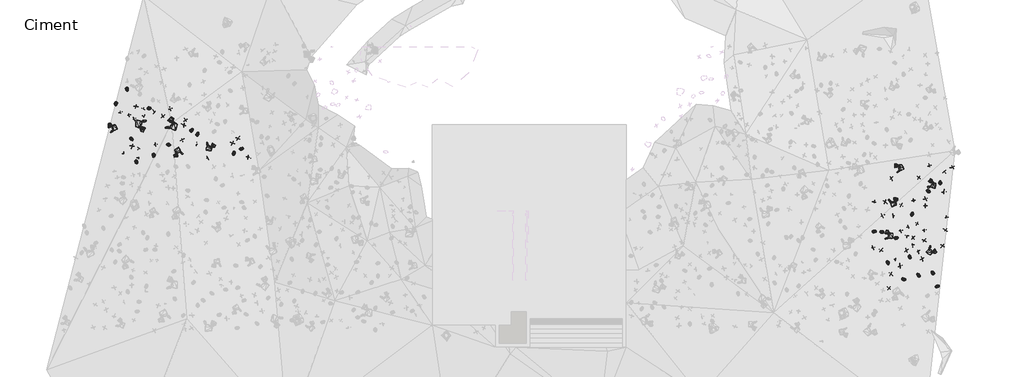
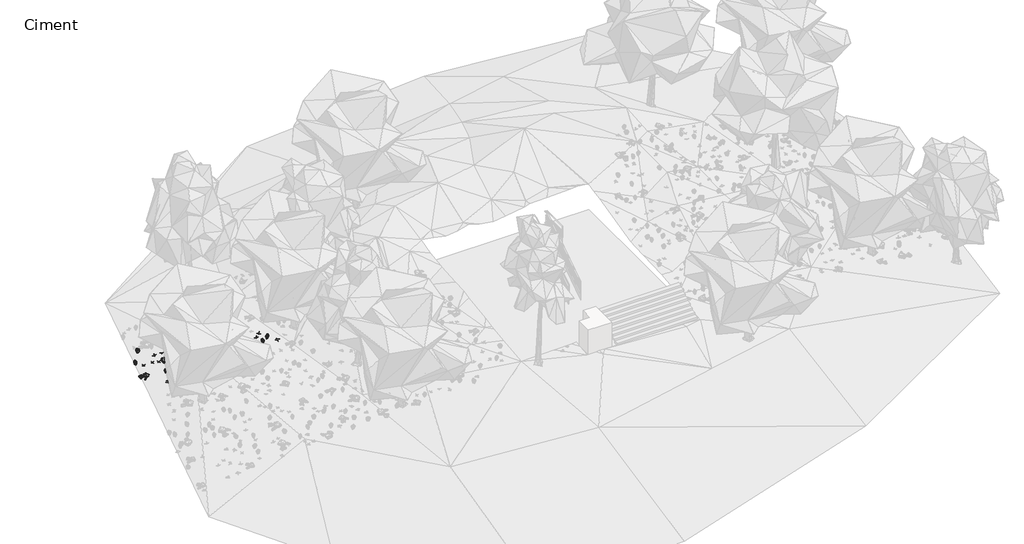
# One storey, part 19 of 30: 89 geographic elements.
"""IFC4 building model written with IfcOpenShell, lengths in millimetres."""

from ifc_helpers import new_model, si_unit, origin, place, context, project, spatial, transform, mapped, element, save
from components import enscape_assetdefinition_bush_025_fern_enscape_5718bf32, enscape_assetdefinition_bush_054_plant_09_version_2_enscape_7b546a12, enscape_assetdefinition_bush_062_plant_09_version_3_enscape_ccf8c8eb, enscape_assetdefinition_stone_013_group_enscape_516da325, enscape_assetdefinition_stone_013_group_enscape_db9b3e91

model = new_model("IFC4")

# Units and contexts
model_context = context("Model", 3, world=origin())
ifc_project = project(units=[si_unit("LENGTHUNIT", "METRE", prefix="MILLI")], contexts=[model_context])

# Site, building, storey
site = spatial("IfcSite", under=ifc_project)
building = spatial("IfcBuilding", under=site)
storey = spatial("IfcBuildingStorey", under=building, Name="Ciment", Elevation=-1500.0)

# Geographic elements
placement = place(None, origin())
enscape_assetdefinition_bush_025_fern_enscape_shape = enscape_assetdefinition_bush_025_fern_enscape_5718bf32(model_context)
element("IfcGeographicElement", 1, ObjectType="Enscape AssetDefinition - Bush 025 Fern : Enscape AssetDefinition - Bush 025 Fern", at=placement, inside=storey, context=model_context, shape_type="MappedRepresentation", body=[
    mapped(enscape_assetdefinition_bush_025_fern_enscape_shape, transform((25272.2930908, -6315.2446747, -2665.5201912), x_axis=(-0.4470800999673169, 0.8944939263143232, 0.0), y_axis=(-0.8944939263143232, -0.4470800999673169, 0.0), z_axis=(0.0, 0.0, 1.0))),
])
element("IfcGeographicElement", 2, ObjectType="Enscape AssetDefinition - Bush 025 Fern : Enscape AssetDefinition - Bush 025 Fern", at=placement, inside=storey, context=model_context, shape_type="MappedRepresentation", body=[
    mapped(enscape_assetdefinition_bush_025_fern_enscape_shape, transform((26689.6247864, -5944.6525574, -2795.6855297), x_axis=(-0.4968771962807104, 0.8678208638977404, 0.0), y_axis=(-0.8678208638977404, -0.4968771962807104, 0.0), z_axis=(0.0, 0.0, 1.0))),
])
element("IfcGeographicElement", 3, ObjectType="Enscape AssetDefinition - Bush 025 Fern : Enscape AssetDefinition - Bush 025 Fern", at=placement, inside=storey, context=model_context, shape_type="MappedRepresentation", body=[
    mapped(enscape_assetdefinition_bush_025_fern_enscape_shape, transform((24394.0219879, -4315.8321381, -2561.4352226), x_axis=(0.9528302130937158, 0.3035038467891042, 0.0), y_axis=(-0.3035038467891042, 0.9528302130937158, 0.0), z_axis=(0.0, 0.0, 1.0))),
])
element("IfcGeographicElement", 4, ObjectType="Enscape AssetDefinition - Bush 025 Fern : Enscape AssetDefinition - Bush 025 Fern", at=placement, inside=storey, context=model_context, shape_type="MappedRepresentation", body=[
    mapped(enscape_assetdefinition_bush_025_fern_enscape_shape, transform((-19826.2519836, 2251.2340546, -2000.0), x_axis=(0.6015106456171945, 0.7988647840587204, 0.0), y_axis=(-0.7988647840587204, 0.6015106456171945, 0.0), z_axis=(0.0, 0.0, 1.0))),
])
element("IfcGeographicElement", 5, ObjectType="Enscape AssetDefinition - Bush 025 Fern : Enscape AssetDefinition - Bush 025 Fern", at=placement, inside=storey, context=model_context, shape_type="MappedRepresentation", body=[
    mapped(enscape_assetdefinition_bush_025_fern_enscape_shape, transform((-23718.952179, 1681.8218231, -2591.2482738), x_axis=(0.8917267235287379, -0.45257424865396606, 0.0), y_axis=(0.45257424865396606, 0.8917267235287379, 0.0), z_axis=(0.0, 0.0, 1.0))),
])
element("IfcGeographicElement", 6, ObjectType="Enscape AssetDefinition - Bush 025 Fern : Enscape AssetDefinition - Bush 025 Fern", at=placement, inside=storey, context=model_context, shape_type="MappedRepresentation", body=[
    mapped(enscape_assetdefinition_bush_025_fern_enscape_shape, transform((28665.47966, -1145.1797485, -2932.1327209), x_axis=(-0.23205937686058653, 0.9727016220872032, 0.0), y_axis=(-0.9727016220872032, -0.23205937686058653, 0.0), z_axis=(0.0, 0.0, 1.0))),
])
element("IfcGeographicElement", 7, ObjectType="Enscape AssetDefinition - Bush 025 Fern : Enscape AssetDefinition - Bush 025 Fern", at=placement, inside=storey, context=model_context, shape_type="MappedRepresentation", body=[
    mapped(enscape_assetdefinition_bush_025_fern_enscape_shape, transform((25821.47789, -4731.7051888, -2700.823307), x_axis=(0.8997557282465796, 0.4363938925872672, 0.0), y_axis=(-0.4363938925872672, 0.8997557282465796, 0.0), z_axis=(0.0, 0.0, 1.0))),
])
element("IfcGeographicElement", 8, ObjectType="Enscape AssetDefinition - Bush 025 Fern : Enscape AssetDefinition - Bush 025 Fern", at=placement, inside=storey, context=model_context, shape_type="MappedRepresentation", body=[
    mapped(enscape_assetdefinition_bush_025_fern_enscape_shape, transform((26303.4725189, -7410.0041389, -2774.5606899), x_axis=(0.9986391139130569, -0.05215285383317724, 0.0), y_axis=(0.05215285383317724, 0.9986391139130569, 0.0), z_axis=(0.0, 0.0, 1.0))),
])
element("IfcGeographicElement", 9, ObjectType="Enscape AssetDefinition - Bush 025 Fern : Enscape AssetDefinition - Bush 025 Fern", at=placement, inside=storey, context=model_context, shape_type="MappedRepresentation", body=[
    mapped(enscape_assetdefinition_bush_025_fern_enscape_shape, transform((-24014.6369934, 4903.793335, -2876.9335747), x_axis=(0.4265110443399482, -0.9044823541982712, 0.0), y_axis=(0.9044823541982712, 0.4265110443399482, 0.0), z_axis=(0.0, 0.0, 1.0))),
])
element("IfcGeographicElement", 10, ObjectType="Enscape AssetDefinition - Bush 025 Fern : Enscape AssetDefinition - Bush 025 Fern", at=placement, inside=storey, context=model_context, shape_type="MappedRepresentation", body=[
    mapped(enscape_assetdefinition_bush_025_fern_enscape_shape, transform((28458.1928253, -7866.733551, -2983.1666946), x_axis=(-0.8804370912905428, -0.4741629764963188, 0.0), y_axis=(0.4741629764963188, -0.8804370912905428, 0.0), z_axis=(0.0, 0.0, 1.0))),
])
element("IfcGeographicElement", 11, ObjectType="Enscape AssetDefinition - Bush 025 Fern : Enscape AssetDefinition - Bush 025 Fern", at=placement, inside=storey, context=model_context, shape_type="MappedRepresentation", body=[
    mapped(enscape_assetdefinition_bush_025_fern_enscape_shape, transform((24889.5225525, -4343.1663513, -2608.590126), x_axis=(0.9862597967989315, 0.16520173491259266, 0.0), y_axis=(-0.16520173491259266, 0.9862597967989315, 0.0), z_axis=(0.0, 0.0, 1.0))),
])
element("IfcGeographicElement", 12, ObjectType="Enscape AssetDefinition - Bush 025 Fern : Enscape AssetDefinition - Bush 025 Fern", at=placement, inside=storey, context=model_context, shape_type="MappedRepresentation", body=[
    mapped(enscape_assetdefinition_bush_025_fern_enscape_shape, transform((-17083.1756592, 766.3898468, -2000.0), x_axis=(0.09446084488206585, 0.995528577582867, 0.0), y_axis=(-0.995528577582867, 0.09446084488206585, 0.0), z_axis=(0.0, 0.0, 1.0))),
])
element("IfcGeographicElement", 13, ObjectType="Enscape AssetDefinition - Bush 025 Fern : Enscape AssetDefinition - Bush 025 Fern", at=placement, inside=storey, context=model_context, shape_type="MappedRepresentation", body=[
    mapped(enscape_assetdefinition_bush_025_fern_enscape_shape, transform((-21310.67276, 1307.7812195, -2032.7322483), x_axis=(0.9995155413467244, 0.031123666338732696, 0.0), y_axis=(-0.031123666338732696, 0.9995155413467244, 0.0), z_axis=(0.0, 0.0, 1.0))),
])
element("IfcGeographicElement", 14, ObjectType="Enscape AssetDefinition - Bush 025 Fern : Enscape AssetDefinition - Bush 025 Fern", at=placement, inside=storey, context=model_context, shape_type="MappedRepresentation", body=[
    mapped(enscape_assetdefinition_bush_025_fern_enscape_shape, transform((-23405.6720734, 191.9727325, -2414.6027565), x_axis=(0.5248636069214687, -0.8511863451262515, 0.0), y_axis=(0.8511863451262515, 0.5248636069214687, 0.0), z_axis=(0.0, 0.0, 1.0))),
])
element("IfcGeographicElement", 15, ObjectType="Enscape AssetDefinition - Bush 025 Fern : Enscape AssetDefinition - Bush 025 Fern", at=placement, inside=storey, context=model_context, shape_type="MappedRepresentation", body=[
    mapped(enscape_assetdefinition_bush_025_fern_enscape_shape, transform((-22586.4562988, 3673.8643646, -2436.0294342), x_axis=(-0.9929534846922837, -0.11850475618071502, 0.0), y_axis=(0.11850475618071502, -0.9929534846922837, 0.0), z_axis=(0.0, 0.0, 1.0))),
])
element("IfcGeographicElement", 16, ObjectType="Enscape AssetDefinition - Bush 025 Fern : Enscape AssetDefinition - Bush 025 Fern", at=placement, inside=storey, context=model_context, shape_type="MappedRepresentation", body=[
    mapped(enscape_assetdefinition_bush_025_fern_enscape_shape, transform((26832.2696686, -3190.3400421, -2780.230999), x_axis=(-0.10623300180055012, -0.9943412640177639, 0.0), y_axis=(0.9943412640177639, -0.10623300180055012, 0.0), z_axis=(0.0, 0.0, 1.0))),
])
element("IfcGeographicElement", 17, ObjectType="Enscape AssetDefinition - Bush 025 Fern : Enscape AssetDefinition - Bush 025 Fern", at=placement, inside=storey, context=model_context, shape_type="MappedRepresentation", body=[
    mapped(enscape_assetdefinition_bush_025_fern_enscape_shape, transform((27901.5789032, -1701.1739016, -2865.7221794), x_axis=(0.9169767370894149, -0.39894067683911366, 0.0), y_axis=(0.39894067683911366, 0.9169767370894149, 0.0), z_axis=(0.0, 0.0, 1.0))),
])
element("IfcGeographicElement", 18, ObjectType="Enscape AssetDefinition - Bush 025 Fern : Enscape AssetDefinition - Bush 025 Fern", at=placement, inside=storey, context=model_context, shape_type="MappedRepresentation", body=[
    mapped(enscape_assetdefinition_bush_025_fern_enscape_shape, transform((-19436.2297058, 2000.0, -2000.0), x_axis=(0.24957650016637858, 0.9683550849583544, 0.0), y_axis=(-0.9683550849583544, 0.24957650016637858, 0.0), z_axis=(0.0, 0.0, 1.0))),
])
element("IfcGeographicElement", 19, ObjectType="Enscape AssetDefinition - Bush 025 Fern : Enscape AssetDefinition - Bush 025 Fern", at=placement, inside=storey, context=model_context, shape_type="MappedRepresentation", body=[
    mapped(enscape_assetdefinition_bush_025_fern_enscape_shape, transform((27255.4340363, -7129.8203468, -2861.6585732), x_axis=(-0.7425575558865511, 0.6697822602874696, 0.0), y_axis=(-0.6697822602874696, -0.7425575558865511, 0.0), z_axis=(0.0, 0.0, 1.0))),
])
element("IfcGeographicElement", 20, ObjectType="Enscape AssetDefinition - Bush 025 Fern : Enscape AssetDefinition - Bush 025 Fern", at=placement, inside=storey, context=model_context, shape_type="MappedRepresentation", body=[
    mapped(enscape_assetdefinition_bush_025_fern_enscape_shape, transform((28184.3090057, -6986.1869812, -2948.0071068), x_axis=(-0.6942662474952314, 0.7197182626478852, 0.0), y_axis=(-0.7197182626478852, -0.6942662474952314, 0.0), z_axis=(0.0, 0.0, 1.0))),
])
element("IfcGeographicElement", 21, ObjectType="Enscape AssetDefinition - Bush 025 Fern : Enscape AssetDefinition - Bush 025 Fern", at=placement, inside=storey, context=model_context, shape_type="MappedRepresentation", body=[
    mapped(enscape_assetdefinition_bush_025_fern_enscape_shape, transform((-22283.3995819, 622.9152679, -2159.6889496), x_axis=(0.11024218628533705, -0.9939047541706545, 0.0), y_axis=(0.9939047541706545, 0.11024218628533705, 0.0), z_axis=(0.0, 0.0, 1.0))),
])
element("IfcGeographicElement", 22, ObjectType="Enscape AssetDefinition - Bush 025 Fern : Enscape AssetDefinition - Bush 025 Fern", at=placement, inside=storey, context=model_context, shape_type="MappedRepresentation", body=[
    mapped(enscape_assetdefinition_bush_025_fern_enscape_shape, transform((-24730.4992676, 3964.4908905, -2996.0064888), x_axis=(0.0324534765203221, -0.9994732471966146, 0.0), y_axis=(0.9994732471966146, 0.0324534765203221, 0.0), z_axis=(0.0, 0.0, 1.0))),
])
element("IfcGeographicElement", 23, ObjectType="Enscape AssetDefinition - Bush 025 Fern : Enscape AssetDefinition - Bush 025 Fern", at=placement, inside=storey, context=model_context, shape_type="MappedRepresentation", body=[
    mapped(enscape_assetdefinition_bush_025_fern_enscape_shape, transform((-16603.6338806, 1044.757843, -2000.0), x_axis=(-0.8660772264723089, -0.4999102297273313, 0.0), y_axis=(0.4999102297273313, -0.8660772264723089, 0.0), z_axis=(0.0, 0.0, 1.0))),
])
enscape_assetdefinition_bush_054_plant_09_version_2_enscape_shape = enscape_assetdefinition_bush_054_plant_09_version_2_enscape_7b546a12(model_context)
element("IfcGeographicElement", 24, ObjectType="Enscape AssetDefinition - Bush 054 Plant 09, Version 2 : Enscape AssetDefinition - Bush 054 Plant 09, Version 2", at=placement, inside=storey, context=model_context, shape_type="MappedRepresentation", body=[
    mapped(enscape_assetdefinition_bush_054_plant_09_version_2_enscape_shape, transform((-21205.0209045, 3648.8878727, -2105.9594154), x_axis=(-0.9361341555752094, -0.3516430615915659, 0.0), y_axis=(0.3516430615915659, -0.9361341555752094, 0.0), z_axis=(0.0, 0.0, 1.0))),
])
element("IfcGeographicElement", 25, ObjectType="Enscape AssetDefinition - Bush 054 Plant 09, Version 2 : Enscape AssetDefinition - Bush 054 Plant 09, Version 2", at=placement, inside=storey, context=model_context, shape_type="MappedRepresentation", body=[
    mapped(enscape_assetdefinition_bush_054_plant_09_version_2_enscape_shape, transform((-23878.2958984, 3238.9278412, -2733.4628105), x_axis=(-0.9619309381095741, -0.27329264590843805, 0.0), y_axis=(0.27329264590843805, -0.9619309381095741, 0.0), z_axis=(0.0, 0.0, 1.0))),
])
element("IfcGeographicElement", 26, ObjectType="Enscape AssetDefinition - Bush 054 Plant 09, Version 2 : Enscape AssetDefinition - Bush 054 Plant 09, Version 2", at=placement, inside=storey, context=model_context, shape_type="MappedRepresentation", body=[
    mapped(enscape_assetdefinition_bush_054_plant_09_version_2_enscape_shape, transform((25332.868576, -7978.4927368, -2688.7302399), x_axis=(0.8211239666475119, -0.5707498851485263, 0.0), y_axis=(0.5707498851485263, 0.8211239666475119, 0.0), z_axis=(0.0, 0.0, 1.0))),
])
element("IfcGeographicElement", 27, ObjectType="Enscape AssetDefinition - Bush 054 Plant 09, Version 2 : Enscape AssetDefinition - Bush 054 Plant 09, Version 2", at=placement, inside=storey, context=model_context, shape_type="MappedRepresentation", body=[
    mapped(enscape_assetdefinition_bush_054_plant_09_version_2_enscape_shape, transform((-18774.7535706, 471.8074799, -1999.9998808), x_axis=(-0.884380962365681, -0.46676580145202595, 0.0), y_axis=(0.46676580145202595, -0.884380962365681, 0.0), z_axis=(0.0, 0.0, 1.0))),
])
element("IfcGeographicElement", 28, ObjectType="Enscape AssetDefinition - Bush 054 Plant 09, Version 2 : Enscape AssetDefinition - Bush 054 Plant 09, Version 2", at=placement, inside=storey, context=model_context, shape_type="MappedRepresentation", body=[
    mapped(enscape_assetdefinition_bush_054_plant_09_version_2_enscape_shape, transform((-23268.6767578, 492.7349389, -2399.7426033), x_axis=(0.07952719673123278, -0.9968326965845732, 0.0), y_axis=(0.9968326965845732, 0.07952719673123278, 0.0), z_axis=(0.0, 0.0, 1.0))),
])
element("IfcGeographicElement", 29, ObjectType="Enscape AssetDefinition - Bush 054 Plant 09, Version 2 : Enscape AssetDefinition - Bush 054 Plant 09, Version 2", at=placement, inside=storey, context=model_context, shape_type="MappedRepresentation", body=[
    mapped(enscape_assetdefinition_bush_054_plant_09_version_2_enscape_shape, transform((25773.0503082, -6135.6525421, -2710.9971046), x_axis=(0.18951040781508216, 0.9818787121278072, 0.0), y_axis=(-0.9818787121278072, 0.18951040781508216, 0.0), z_axis=(0.0, 0.0, 1.0))),
])
element("IfcGeographicElement", 30, ObjectType="Enscape AssetDefinition - Bush 054 Plant 09, Version 2 : Enscape AssetDefinition - Bush 054 Plant 09, Version 2", at=placement, inside=storey, context=model_context, shape_type="MappedRepresentation", body=[
    mapped(enscape_assetdefinition_bush_054_plant_09_version_2_enscape_shape, transform((-22967.5178528, 3623.4264374, -2528.866291), x_axis=(0.4179757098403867, 0.9084582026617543, 0.0), y_axis=(-0.9084582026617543, 0.4179757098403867, 0.0), z_axis=(0.0, 0.0, 1.0))),
])
element("IfcGeographicElement", 31, ObjectType="Enscape AssetDefinition - Bush 054 Plant 09, Version 2 : Enscape AssetDefinition - Bush 054 Plant 09, Version 2", at=placement, inside=storey, context=model_context, shape_type="MappedRepresentation", body=[
    mapped(enscape_assetdefinition_bush_054_plant_09_version_2_enscape_shape, transform((25597.4636078, -3302.6065826, -2664.6158695), x_axis=(0.9878319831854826, 0.1555248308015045, 0.0), y_axis=(-0.1555248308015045, 0.9878319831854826, 0.0), z_axis=(0.0, 0.0, 1.0))),
])
element("IfcGeographicElement", 32, ObjectType="Enscape AssetDefinition - Bush 054 Plant 09, Version 2 : Enscape AssetDefinition - Bush 054 Plant 09, Version 2", at=placement, inside=storey, context=model_context, shape_type="MappedRepresentation", body=[
    mapped(enscape_assetdefinition_bush_054_plant_09_version_2_enscape_shape, transform((24383.1043243, -2407.8598022, -2486.6781235), x_axis=(0.9934047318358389, -0.11466053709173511, 0.0), y_axis=(0.11466053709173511, 0.9934047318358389, 0.0), z_axis=(0.0, 0.0, 1.0))),
])
element("IfcGeographicElement", 33, ObjectType="Enscape AssetDefinition - Bush 054 Plant 09, Version 2 : Enscape AssetDefinition - Bush 054 Plant 09, Version 2", at=placement, inside=storey, context=model_context, shape_type="MappedRepresentation", body=[
    mapped(enscape_assetdefinition_bush_054_plant_09_version_2_enscape_shape, transform((-19507.6999664, 1353.7521362, -1999.9998808), x_axis=(-0.9960663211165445, 0.08861085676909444, 0.0), y_axis=(-0.08861085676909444, -0.9960663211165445, 0.0), z_axis=(0.0, 0.0, 1.0))),
])
element("IfcGeographicElement", 34, ObjectType="Enscape AssetDefinition - Bush 054 Plant 09, Version 2 : Enscape AssetDefinition - Bush 054 Plant 09, Version 2", at=placement, inside=storey, context=model_context, shape_type="MappedRepresentation", body=[
    mapped(enscape_assetdefinition_bush_054_plant_09_version_2_enscape_shape, transform((-22911.113739, 3137.1228695, -2482.7766418), x_axis=(0.9468023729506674, -0.3218155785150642, 0.0), y_axis=(0.3218155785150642, 0.9468023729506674, 0.0), z_axis=(0.0, 0.0, 1.0))),
])
element("IfcGeographicElement", 35, ObjectType="Enscape AssetDefinition - Bush 054 Plant 09, Version 2 : Enscape AssetDefinition - Bush 054 Plant 09, Version 2", at=placement, inside=storey, context=model_context, shape_type="MappedRepresentation", body=[
    mapped(enscape_assetdefinition_bush_054_plant_09_version_2_enscape_shape, transform((27154.2167664, -3795.4695225, -2817.0413971), x_axis=(0.889150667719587, -0.4576145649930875, 0.0), y_axis=(0.4576145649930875, 0.889150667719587, 0.0), z_axis=(0.0, 0.0, 1.0))),
])
element("IfcGeographicElement", 36, ObjectType="Enscape AssetDefinition - Bush 054 Plant 09, Version 2 : Enscape AssetDefinition - Bush 054 Plant 09, Version 2", at=placement, inside=storey, context=model_context, shape_type="MappedRepresentation", body=[
    mapped(enscape_assetdefinition_bush_054_plant_09_version_2_enscape_shape, transform((28949.426651, -428.4706116, -2951.4579773), x_axis=(-0.647317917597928, 0.7622201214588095, 0.0), y_axis=(-0.7622201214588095, -0.647317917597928, 0.0), z_axis=(0.0, 0.0, 1.0))),
])
element("IfcGeographicElement", 37, ObjectType="Enscape AssetDefinition - Bush 054 Plant 09, Version 2 : Enscape AssetDefinition - Bush 054 Plant 09, Version 2", at=placement, inside=storey, context=model_context, shape_type="MappedRepresentation", body=[
    mapped(enscape_assetdefinition_bush_054_plant_09_version_2_enscape_shape, transform((27634.8133087, -4206.4418793, -2866.8186665), x_axis=(-0.9894269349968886, -0.14503220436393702, 0.0), y_axis=(0.14503220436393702, -0.9894269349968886, 0.0), z_axis=(0.0, 0.0, 1.0))),
])
element("IfcGeographicElement", 38, ObjectType="Enscape AssetDefinition - Bush 054 Plant 09, Version 2 : Enscape AssetDefinition - Bush 054 Plant 09, Version 2", at=placement, inside=storey, context=model_context, shape_type="MappedRepresentation", body=[
    mapped(enscape_assetdefinition_bush_054_plant_09_version_2_enscape_shape, transform((26926.6223907, -2293.6954498, -2779.7317505), x_axis=(0.26666592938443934, -0.9637890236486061, 0.0), y_axis=(0.9637890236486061, 0.26666592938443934, 0.0), z_axis=(0.0, 0.0, 1.0))),
])
element("IfcGeographicElement", 39, ObjectType="Enscape AssetDefinition - Bush 054 Plant 09, Version 2 : Enscape AssetDefinition - Bush 054 Plant 09, Version 2", at=placement, inside=storey, context=model_context, shape_type="MappedRepresentation", body=[
    mapped(enscape_assetdefinition_bush_054_plant_09_version_2_enscape_shape, transform((26149.4846344, -2593.2388306, -2709.3734741), x_axis=(-0.8952437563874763, 0.44557672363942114, 0.0), y_axis=(-0.44557672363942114, -0.8952437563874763, 0.0), z_axis=(0.0, 0.0, 1.0))),
])
element("IfcGeographicElement", 40, ObjectType="Enscape AssetDefinition - Bush 054 Plant 09, Version 2 : Enscape AssetDefinition - Bush 054 Plant 09, Version 2", at=placement, inside=storey, context=model_context, shape_type="MappedRepresentation", body=[
    mapped(enscape_assetdefinition_bush_054_plant_09_version_2_enscape_shape, transform((-22157.8769684, 1331.7337036, -2174.45755), x_axis=(-0.9828549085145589, -0.18438066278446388, 0.0), y_axis=(0.18438066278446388, -0.9828549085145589, 0.0), z_axis=(0.0, 0.0, 1.0))),
])
element("IfcGeographicElement", 41, ObjectType="Enscape AssetDefinition - Bush 054 Plant 09, Version 2 : Enscape AssetDefinition - Bush 054 Plant 09, Version 2", at=placement, inside=storey, context=model_context, shape_type="MappedRepresentation", body=[
    mapped(enscape_assetdefinition_bush_054_plant_09_version_2_enscape_shape, transform((-23232.1147919, 1072.9541779, -2428.5302162), x_axis=(0.6269487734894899, 0.7790604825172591, 0.0), y_axis=(-0.7790604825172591, 0.6269487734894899, 0.0), z_axis=(0.0, 0.0, 1.0))),
])
element("IfcGeographicElement", 42, ObjectType="Enscape AssetDefinition - Bush 054 Plant 09, Version 2 : Enscape AssetDefinition - Bush 054 Plant 09, Version 2", at=placement, inside=storey, context=model_context, shape_type="MappedRepresentation", body=[
    mapped(enscape_assetdefinition_bush_054_plant_09_version_2_enscape_shape, transform((-24440.1397705, 3423.8014221, -2887.3271942), x_axis=(0.31529128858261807, -0.948994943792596, 0.0), y_axis=(0.948994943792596, 0.31529128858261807, 0.0), z_axis=(0.0, 0.0, 1.0))),
])
element("IfcGeographicElement", 43, ObjectType="Enscape AssetDefinition - Bush 054 Plant 09, Version 2 : Enscape AssetDefinition - Bush 054 Plant 09, Version 2", at=placement, inside=storey, context=model_context, shape_type="MappedRepresentation", body=[
    mapped(enscape_assetdefinition_bush_054_plant_09_version_2_enscape_shape, transform((27961.6107941, -46.9818152, -2833.7230682), x_axis=(0.35933672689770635, -0.9332079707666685, 0.0), y_axis=(0.9332079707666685, 0.35933672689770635, 0.0), z_axis=(0.0, 0.0, 1.0))),
])
element("IfcGeographicElement", 44, ObjectType="Enscape AssetDefinition - Bush 054 Plant 09, Version 2 : Enscape AssetDefinition - Bush 054 Plant 09, Version 2", at=placement, inside=storey, context=model_context, shape_type="MappedRepresentation", body=[
    mapped(enscape_assetdefinition_bush_054_plant_09_version_2_enscape_shape, transform((29077.9666901, -3397.6917267, -2994.8215485), x_axis=(-0.9961922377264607, -0.08718386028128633, 0.0), y_axis=(0.08718386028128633, -0.9961922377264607, 0.0), z_axis=(0.0, 0.0, 1.0))),
])
element("IfcGeographicElement", 45, ObjectType="Enscape AssetDefinition - Bush 054 Plant 09, Version 2 : Enscape AssetDefinition - Bush 054 Plant 09, Version 2", at=placement, inside=storey, context=model_context, shape_type="MappedRepresentation", body=[
    mapped(enscape_assetdefinition_bush_054_plant_09_version_2_enscape_shape, transform((-23544.9581146, 2992.4030304, -2633.2120895), x_axis=(-0.9081021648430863, -0.4187486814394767, 0.0), y_axis=(0.4187486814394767, -0.9081021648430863, 0.0), z_axis=(0.0, 0.0, 1.0))),
])
element("IfcGeographicElement", 46, ObjectType="Enscape AssetDefinition - Bush 054 Plant 09, Version 2 : Enscape AssetDefinition - Bush 054 Plant 09, Version 2", at=placement, inside=storey, context=model_context, shape_type="MappedRepresentation", body=[
    mapped(enscape_assetdefinition_bush_054_plant_09_version_2_enscape_shape, transform((-20230.3886414, 2911.2012386, -2000.0), x_axis=(0.6045364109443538, -0.7965775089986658, 0.0), y_axis=(0.7965775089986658, 0.6045364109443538, 0.0), z_axis=(0.0, 0.0, 1.0))),
])
element("IfcGeographicElement", 47, ObjectType="Enscape AssetDefinition - Bush 054 Plant 09, Version 2 : Enscape AssetDefinition - Bush 054 Plant 09, Version 2", at=placement, inside=storey, context=model_context, shape_type="MappedRepresentation", body=[
    mapped(enscape_assetdefinition_bush_054_plant_09_version_2_enscape_shape, transform((27282.8578949, -827.2190094, -2784.7084999), x_axis=(0.5508599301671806, 0.8345977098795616, 0.0), y_axis=(-0.8345977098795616, 0.5508599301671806, 0.0), z_axis=(0.0, 0.0, 1.0))),
])
element("IfcGeographicElement", 48, ObjectType="Enscape AssetDefinition - Bush 054 Plant 09, Version 2 : Enscape AssetDefinition - Bush 054 Plant 09, Version 2", at=placement, inside=storey, context=model_context, shape_type="MappedRepresentation", body=[
    mapped(enscape_assetdefinition_bush_054_plant_09_version_2_enscape_shape, transform((27706.4533234, -2636.9037628, -2857.1000099), x_axis=(-0.9993018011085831, -0.03736188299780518, 0.0), y_axis=(0.03736188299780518, -0.9993018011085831, 0.0), z_axis=(0.0, 0.0, 1.0))),
])
element("IfcGeographicElement", 49, ObjectType="Enscape AssetDefinition - Bush 054 Plant 09, Version 2 : Enscape AssetDefinition - Bush 054 Plant 09, Version 2", at=placement, inside=storey, context=model_context, shape_type="MappedRepresentation", body=[
    mapped(enscape_assetdefinition_bush_054_plant_09_version_2_enscape_shape, transform((26871.5057373, -5206.184864, -2805.1271439), x_axis=(-0.2055903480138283, 0.9786381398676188, 0.0), y_axis=(-0.9786381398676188, -0.2055903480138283, 0.0), z_axis=(0.0, 0.0, 1.0))),
])
enscape_assetdefinition_bush_062_plant_09_version_3_enscape_shape = enscape_assetdefinition_bush_062_plant_09_version_3_enscape_ccf8c8eb(model_context)
element("IfcGeographicElement", 50, ObjectType="Enscape AssetDefinition - Bush 062 Plant 09, Version 3 : Enscape AssetDefinition - Bush 062 Plant 09, Version 3", at=placement, inside=storey, context=model_context, shape_type="MappedRepresentation", body=[
    mapped(enscape_assetdefinition_bush_062_plant_09_version_3_enscape_shape, transform((27631.7615509, -4882.4996948, -2873.6355305), x_axis=(0.9481105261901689, -0.31794092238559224, 0.0), y_axis=(0.31794092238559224, 0.9481105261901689, 0.0), z_axis=(0.0, 0.0, 1.0))),
])
element("IfcGeographicElement", 51, ObjectType="Enscape AssetDefinition - Bush 062 Plant 09, Version 3 : Enscape AssetDefinition - Bush 062 Plant 09, Version 3", at=placement, inside=storey, context=model_context, shape_type="MappedRepresentation", body=[
    mapped(enscape_assetdefinition_bush_062_plant_09_version_3_enscape_shape, transform((25109.2243195, -2400.428772, -2580.9471607), x_axis=(-0.304010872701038, -0.9526685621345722, 0.0), y_axis=(0.9526685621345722, -0.304010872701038, 0.0), z_axis=(0.0, 0.0, 1.0))),
])
element("IfcGeographicElement", 52, ObjectType="Enscape AssetDefinition - Bush 062 Plant 09, Version 3 : Enscape AssetDefinition - Bush 062 Plant 09, Version 3", at=placement, inside=storey, context=model_context, shape_type="MappedRepresentation", body=[
    mapped(enscape_assetdefinition_bush_062_plant_09_version_3_enscape_shape, transform((-21692.5754547, 3167.2115326, -2177.3133278), x_axis=(0.6290088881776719, 0.7773981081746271, 0.0), y_axis=(-0.7773981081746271, 0.6290088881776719, 0.0), z_axis=(0.0, 0.0, 1.0))),
])
element("IfcGeographicElement", 53, ObjectType="Enscape AssetDefinition - Bush 062 Plant 09, Version 3 : Enscape AssetDefinition - Bush 062 Plant 09, Version 3", at=placement, inside=storey, context=model_context, shape_type="MappedRepresentation", body=[
    mapped(enscape_assetdefinition_bush_062_plant_09_version_3_enscape_shape, transform((29443.8800812, -138.4239197, -2995.1777458), x_axis=(-0.5635814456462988, 0.8260605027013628, 0.0), y_axis=(-0.8260605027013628, -0.5635814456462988, 0.0), z_axis=(0.0, 0.0, 1.0))),
])
element("IfcGeographicElement", 54, ObjectType="Enscape AssetDefinition - Bush 062 Plant 09, Version 3 : Enscape AssetDefinition - Bush 062 Plant 09, Version 3", at=placement, inside=storey, context=model_context, shape_type="MappedRepresentation", body=[
    mapped(enscape_assetdefinition_bush_062_plant_09_version_3_enscape_shape, transform((-17179.9201965, 1402.7881622, -2000.0), x_axis=(-0.9849500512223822, 0.1728392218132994, 0.0), y_axis=(-0.1728392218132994, -0.9849500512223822, 0.0), z_axis=(0.0, 0.0, 1.0))),
])
element("IfcGeographicElement", 55, ObjectType="Enscape AssetDefinition - Bush 062 Plant 09, Version 3 : Enscape AssetDefinition - Bush 062 Plant 09, Version 3", at=placement, inside=storey, context=model_context, shape_type="MappedRepresentation", body=[
    mapped(enscape_assetdefinition_bush_062_plant_09_version_3_enscape_shape, transform((-16816.5130615, 1731.5958738, -2000.0), x_axis=(0.9616691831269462, -0.2742122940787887, 0.0), y_axis=(0.2742122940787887, 0.9616691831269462, 0.0), z_axis=(0.0, 0.0, 1.0))),
])
element("IfcGeographicElement", 56, ObjectType="Enscape AssetDefinition - Bush 062 Plant 09, Version 3 : Enscape AssetDefinition - Bush 062 Plant 09, Version 3", at=placement, inside=storey, context=model_context, shape_type="MappedRepresentation", body=[
    mapped(enscape_assetdefinition_bush_062_plant_09_version_3_enscape_shape, transform((28901.0601044, -1733.5892916, -2960.5994225), x_axis=(0.9865439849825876, 0.16349607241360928, 0.0), y_axis=(-0.16349607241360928, 0.9865439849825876, 0.0), z_axis=(0.0, 0.0, 1.0))),
])
element("IfcGeographicElement", 57, ObjectType="Enscape AssetDefinition - Bush 062 Plant 09, Version 3 : Enscape AssetDefinition - Bush 062 Plant 09, Version 3", at=placement, inside=storey, context=model_context, shape_type="MappedRepresentation", body=[
    mapped(enscape_assetdefinition_bush_062_plant_09_version_3_enscape_shape, transform((28805.6087494, -5254.1294098, -2988.5697365), x_axis=(-0.9376831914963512, 0.3474913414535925, 0.0), y_axis=(-0.3474913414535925, -0.9376831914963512, 0.0), z_axis=(0.0, 0.0, 1.0))),
])
element("IfcGeographicElement", 58, ObjectType="Enscape AssetDefinition - Bush 062 Plant 09, Version 3 : Enscape AssetDefinition - Bush 062 Plant 09, Version 3", at=placement, inside=storey, context=model_context, shape_type="MappedRepresentation", body=[
    mapped(enscape_assetdefinition_bush_062_plant_09_version_3_enscape_shape, transform((26628.1909943, -4015.5887604, -2769.6008682), x_axis=(0.37514990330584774, -0.9269641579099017, 0.0), y_axis=(0.9269641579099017, 0.37514990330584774, 0.0), z_axis=(0.0, 0.0, 1.0))),
])
element("IfcGeographicElement", 59, ObjectType="Enscape AssetDefinition - Bush 062 Plant 09, Version 3 : Enscape AssetDefinition - Bush 062 Plant 09, Version 3", at=placement, inside=storey, context=model_context, shape_type="MappedRepresentation", body=[
    mapped(enscape_assetdefinition_bush_062_plant_09_version_3_enscape_shape, transform((27236.6695404, -5605.5984497, -2843.8646793), x_axis=(-0.8461133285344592, -0.5330030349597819, 0.0), y_axis=(0.5330030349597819, -0.8461133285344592, 0.0), z_axis=(0.0, 0.0, 1.0))),
])
element("IfcGeographicElement", 60, ObjectType="Enscape AssetDefinition - Bush 062 Plant 09, Version 3 : Enscape AssetDefinition - Bush 062 Plant 09, Version 3", at=placement, inside=storey, context=model_context, shape_type="MappedRepresentation", body=[
    mapped(enscape_assetdefinition_bush_062_plant_09_version_3_enscape_shape, transform((26893.0397034, -4694.2329407, -2801.7840385), x_axis=(0.5970951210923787, 0.8021704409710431, 0.0), y_axis=(-0.8021704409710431, 0.5970951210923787, 0.0), z_axis=(0.0, 0.0, 1.0))),
])
element("IfcGeographicElement", 61, ObjectType="Enscape AssetDefinition - Bush 062 Plant 09, Version 3 : Enscape AssetDefinition - Bush 062 Plant 09, Version 3", at=placement, inside=storey, context=model_context, shape_type="MappedRepresentation", body=[
    mapped(enscape_assetdefinition_bush_062_plant_09_version_3_enscape_shape, transform((-20341.3887024, 2584.5031738, -2000.0), x_axis=(0.07626044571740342, 0.9970879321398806, 0.0), y_axis=(-0.9970879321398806, 0.07626044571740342, 0.0), z_axis=(0.0, 0.0, 1.0))),
])
element("IfcGeographicElement", 62, ObjectType="Enscape AssetDefinition - Bush 062 Plant 09, Version 3 : Enscape AssetDefinition - Bush 062 Plant 09, Version 3", at=placement, inside=storey, context=model_context, shape_type="MappedRepresentation", body=[
    mapped(enscape_assetdefinition_bush_062_plant_09_version_3_enscape_shape, transform((-23683.3019257, 1200.3059387, -2550.7080555), x_axis=(-0.9998680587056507, -0.01624392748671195, 0.0), y_axis=(0.01624392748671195, -0.9998680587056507, 0.0), z_axis=(0.0, 0.0, 1.0))),
])
element("IfcGeographicElement", 63, ObjectType="Enscape AssetDefinition - Bush 062 Plant 09, Version 3 : Enscape AssetDefinition - Bush 062 Plant 09, Version 3", at=placement, inside=storey, context=model_context, shape_type="MappedRepresentation", body=[
    mapped(enscape_assetdefinition_bush_062_plant_09_version_3_enscape_shape, transform((27701.8718719, -2198.6236572, -2852.0605564), x_axis=(-0.5574035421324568, 0.8302417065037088, 0.0), y_axis=(-0.8302417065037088, -0.5574035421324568, 0.0), z_axis=(0.0, 0.0, 1.0))),
])
element("IfcGeographicElement", 64, ObjectType="Enscape AssetDefinition - Bush 062 Plant 09, Version 3 : Enscape AssetDefinition - Bush 062 Plant 09, Version 3", at=placement, inside=storey, context=model_context, shape_type="MappedRepresentation", body=[
    mapped(enscape_assetdefinition_bush_062_plant_09_version_3_enscape_shape, transform((25477.273941, -7062.6144409, -2692.7633286), x_axis=(-0.3931542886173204, -0.9194725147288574, 0.0), y_axis=(0.9194725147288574, -0.3931542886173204, 0.0), z_axis=(0.0, 0.0, 1.0))),
])
element("IfcGeographicElement", 65, ObjectType="Enscape AssetDefinition - Bush 062 Plant 09, Version 3 : Enscape AssetDefinition - Bush 062 Plant 09, Version 3", at=placement, inside=storey, context=model_context, shape_type="MappedRepresentation", body=[
    mapped(enscape_assetdefinition_bush_062_plant_09_version_3_enscape_shape, transform((26466.7682648, -4573.4004974, -2760.1947784), x_axis=(-0.15210210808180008, 0.9883647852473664, 0.0), y_axis=(-0.9883647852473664, -0.15210210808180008, 0.0), z_axis=(0.0, 0.0, 1.0))),
])
element("IfcGeographicElement", 66, ObjectType="Enscape AssetDefinition - Bush 062 Plant 09, Version 3 : Enscape AssetDefinition - Bush 062 Plant 09, Version 3", at=placement, inside=storey, context=model_context, shape_type="MappedRepresentation", body=[
    mapped(enscape_assetdefinition_bush_062_plant_09_version_3_enscape_shape, transform((28981.6932678, -4232.2006226, -2994.4849014), x_axis=(-0.9012682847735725, 0.4332614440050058, 0.0), y_axis=(-0.4332614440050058, -0.9012682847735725, 0.0), z_axis=(0.0, 0.0, 1.0))),
])
element("IfcGeographicElement", 67, ObjectType="Enscape AssetDefinition - Bush 062 Plant 09, Version 3 : Enscape AssetDefinition - Bush 062 Plant 09, Version 3", at=placement, inside=storey, context=model_context, shape_type="MappedRepresentation", body=[
    mapped(enscape_assetdefinition_bush_062_plant_09_version_3_enscape_shape, transform((24286.9548798, -5365.1161194, -2562.3357296), x_axis=(-0.44607414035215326, 0.8949960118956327, 0.0), y_axis=(-0.8949960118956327, -0.44607414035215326, 0.0), z_axis=(0.0, 0.0, 1.0))),
])
element("IfcGeographicElement", 68, ObjectType="Enscape AssetDefinition - Bush 062 Plant 09, Version 3 : Enscape AssetDefinition - Bush 062 Plant 09, Version 3", at=placement, inside=storey, context=model_context, shape_type="MappedRepresentation", body=[
    mapped(enscape_assetdefinition_bush_062_plant_09_version_3_enscape_shape, transform((24833.5208893, -5515.4986382, -2615.613699), x_axis=(0.9318374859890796, -0.36287587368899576, 0.0), y_axis=(0.36287587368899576, 0.9318374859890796, 0.0), z_axis=(0.0, 0.0, 1.0))),
])
element("IfcGeographicElement", 69, ObjectType="Enscape AssetDefinition - Bush 062 Plant 09, Version 3 : Enscape AssetDefinition - Bush 062 Plant 09, Version 3", at=placement, inside=storey, context=model_context, shape_type="MappedRepresentation", body=[
    mapped(enscape_assetdefinition_bush_062_plant_09_version_3_enscape_shape, transform((26082.2811127, -4260.925293, -2720.5438614), x_axis=(-0.4521051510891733, 0.891964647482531, 0.0), y_axis=(-0.891964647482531, -0.4521051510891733, 0.0), z_axis=(0.0, 0.0, 1.0))),
])
element("IfcGeographicElement", 70, ObjectType="Enscape AssetDefinition - Bush 062 Plant 09, Version 3 : Enscape AssetDefinition - Bush 062 Plant 09, Version 3", at=placement, inside=storey, context=model_context, shape_type="MappedRepresentation", body=[
    mapped(enscape_assetdefinition_bush_062_plant_09_version_3_enscape_shape, transform((26055.4409027, -6533.8344574, -2741.891861), x_axis=(0.9051482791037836, 0.42509598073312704, 0.0), y_axis=(-0.42509598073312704, 0.9051482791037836, 0.0), z_axis=(0.0, 0.0, 1.0))),
])
element("IfcGeographicElement", 71, ObjectType="Enscape AssetDefinition - Bush 062 Plant 09, Version 3 : Enscape AssetDefinition - Bush 062 Plant 09, Version 3", at=placement, inside=storey, context=model_context, shape_type="MappedRepresentation", body=[
    mapped(enscape_assetdefinition_bush_062_plant_09_version_3_enscape_shape, transform((-23434.1716766, 3770.5762386, -2656.2421322), x_axis=(-0.9996776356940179, -0.025389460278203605, 0.0), y_axis=(0.025389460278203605, -0.9996776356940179, 0.0), z_axis=(0.0, 0.0, 1.0))),
])
element("IfcGeographicElement", 72, ObjectType="Enscape AssetDefinition - Bush 062 Plant 09, Version 3 : Enscape AssetDefinition - Bush 062 Plant 09, Version 3", at=placement, inside=storey, context=model_context, shape_type="MappedRepresentation", body=[
    mapped(enscape_assetdefinition_bush_062_plant_09_version_3_enscape_shape, transform((24924.3526459, -3277.9772282, -2600.6901264), x_axis=(0.6125862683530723, -0.79040373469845, 0.0), y_axis=(0.79040373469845, 0.6125862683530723, 0.0), z_axis=(0.0, 0.0, 1.0))),
])
element("IfcGeographicElement", 73, ObjectType="Enscape AssetDefinition - Bush 062 Plant 09, Version 3 : Enscape AssetDefinition - Bush 062 Plant 09, Version 3", at=placement, inside=storey, context=model_context, shape_type="MappedRepresentation", body=[
    mapped(enscape_assetdefinition_bush_062_plant_09_version_3_enscape_shape, transform((-20423.8548279, 1619.1825867, -1999.9998808), x_axis=(-0.805414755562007, -0.5927116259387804, 0.0), y_axis=(0.5927116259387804, -0.805414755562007, 0.0), z_axis=(0.0, 0.0, 1.0))),
])
element("IfcGeographicElement", 74, ObjectType="Enscape AssetDefinition - Bush 062 Plant 09, Version 3 : Enscape AssetDefinition - Bush 062 Plant 09, Version 3", at=placement, inside=storey, context=model_context, shape_type="MappedRepresentation", body=[
    mapped(enscape_assetdefinition_bush_062_plant_09_version_3_enscape_shape, transform((-22236.8812561, 3436.8133545, -2332.3030472), x_axis=(0.4803806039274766, 0.8770601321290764, 0.0), y_axis=(-0.8770601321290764, 0.4803806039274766, 0.0), z_axis=(0.0, 0.0, 1.0))),
])
element("IfcGeographicElement", 75, ObjectType="Enscape AssetDefinition - Bush 062 Plant 09, Version 3 : Enscape AssetDefinition - Bush 062 Plant 09, Version 3", at=placement, inside=storey, context=model_context, shape_type="MappedRepresentation", body=[
    mapped(enscape_assetdefinition_bush_062_plant_09_version_3_enscape_shape, transform((26470.7660675, -5512.0587349, -2770.4381943), x_axis=(0.7518700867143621, 0.6593112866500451, 0.0), y_axis=(-0.6593112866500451, 0.7518700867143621, 0.0), z_axis=(0.0, 0.0, 1.0))),
])
element("IfcGeographicElement", 76, ObjectType="Enscape AssetDefinition - Bush 062 Plant 09, Version 3 : Enscape AssetDefinition - Bush 062 Plant 09, Version 3", at=placement, inside=storey, context=model_context, shape_type="MappedRepresentation", body=[
    mapped(enscape_assetdefinition_bush_062_plant_09_version_3_enscape_shape, transform((-16145.5917358, 497.4918365, -2000.0), x_axis=(0.04113465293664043, -0.9991536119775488, 0.0), y_axis=(0.9991536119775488, 0.04113465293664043, 0.0), z_axis=(0.0, 0.0, 1.0))),
])
element("IfcGeographicElement", 77, ObjectType="Enscape AssetDefinition - Bush 062 Plant 09, Version 3 : Enscape AssetDefinition - Bush 062 Plant 09, Version 3", at=placement, inside=storey, context=model_context, shape_type="MappedRepresentation", body=[
    mapped(enscape_assetdefinition_bush_062_plant_09_version_3_enscape_shape, transform((25503.0460358, -882.4520111, -2555.5148125), x_axis=(-0.6798097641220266, -0.7333884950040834, 0.0), y_axis=(0.7333884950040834, -0.6798097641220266, 0.0), z_axis=(0.0, 0.0, 1.0))),
])
element("IfcGeographicElement", 78, ObjectType="Enscape AssetDefinition - Bush 062 Plant 09, Version 3 : Enscape AssetDefinition - Bush 062 Plant 09, Version 3", at=placement, inside=storey, context=model_context, shape_type="MappedRepresentation", body=[
    mapped(enscape_assetdefinition_bush_062_plant_09_version_3_enscape_shape, transform((-24185.1348877, 717.8916931, -2645.714283), x_axis=(0.1564646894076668, -0.9876835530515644, 0.0), y_axis=(0.9876835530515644, 0.1564646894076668, 0.0), z_axis=(0.0, 0.0, 1.0))),
])
element("IfcGeographicElement", 79, ObjectType="Enscape AssetDefinition - Bush 062 Plant 09, Version 3 : Enscape AssetDefinition - Bush 062 Plant 09, Version 3", at=placement, inside=storey, context=model_context, shape_type="MappedRepresentation", body=[
    mapped(enscape_assetdefinition_bush_062_plant_09_version_3_enscape_shape, transform((27496.0250854, -6093.6684608, -2873.5253811), x_axis=(-0.8364620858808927, -0.5480247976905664, 0.0), y_axis=(0.5480247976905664, -0.8364620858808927, 0.0), z_axis=(0.0, 0.0, 1.0))),
])
enscape_assetdefinition_stone_013_group_enscape_shape = enscape_assetdefinition_stone_013_group_enscape_516da325(model_context)
element("IfcGeographicElement", 80, ObjectType="Enscape AssetDefinition - Stone 013 Group : Enscape AssetDefinition - Stone 013 Group", at=placement, inside=storey, context=model_context, shape_type="MappedRepresentation", body=[
    mapped(enscape_assetdefinition_stone_013_group_enscape_shape, transform((-21160.8161926, 2597.4655151, -2006.1779022), x_axis=(-0.36756467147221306, -0.9299979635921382, 0.0), y_axis=(0.9299979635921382, -0.36756467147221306, 0.0), z_axis=(0.0, 0.0, 1.0))),
])
element("IfcGeographicElement", 81, ObjectType="Enscape AssetDefinition - Stone 013 Group : Enscape AssetDefinition - Stone 013 Group", at=placement, inside=storey, context=model_context, shape_type="MappedRepresentation", body=[
    mapped(enscape_assetdefinition_stone_013_group_enscape_shape, transform((-23063.6177063, 2621.7079163, -2487.4849319), x_axis=(0.14186149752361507, 0.9898865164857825, 0.0), y_axis=(-0.9898865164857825, 0.14186149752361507, 0.0), z_axis=(0.0, 0.0, 1.0))),
])
enscape_assetdefinition_stone_013_group_enscape_2_shape = enscape_assetdefinition_stone_013_group_enscape_db9b3e91(model_context)
element("IfcGeographicElement", 82, ObjectType="Enscape AssetDefinition - Stone 013 Group : Enscape AssetDefinition - Stone 013 Group 2", at=placement, inside=storey, context=model_context, shape_type="MappedRepresentation", body=[
    mapped(enscape_assetdefinition_stone_013_group_enscape_2_shape, transform((25973.6118317, -213.6650085, -2583.0290318), x_axis=(0.3937429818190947, -0.9192205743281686, 0.0), y_axis=(0.9192205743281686, 0.3937429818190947, 0.0), z_axis=(0.0, 0.0, 1.0))),
])
element("IfcGeographicElement", 83, ObjectType="Enscape AssetDefinition - Stone 013 Group : Enscape AssetDefinition - Stone 013 Group 2", at=placement, inside=storey, context=model_context, shape_type="MappedRepresentation", body=[
    mapped(enscape_assetdefinition_stone_013_group_enscape_2_shape, transform((28074.3312836, -5517.9824829, -2922.1744537), x_axis=(-0.7884071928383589, 0.6151537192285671, 0.0), y_axis=(-0.6151537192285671, -0.7884071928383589, 0.0), z_axis=(0.0, 0.0, 1.0))),
])
element("IfcGeographicElement", 84, ObjectType="Enscape AssetDefinition - Stone 013 Group : Enscape AssetDefinition - Stone 013 Group 2", at=placement, inside=storey, context=model_context, shape_type="MappedRepresentation", body=[
    mapped(enscape_assetdefinition_stone_013_group_enscape_2_shape, transform((25301.9962311, -4580.5644989, -2650.0995159), x_axis=(-0.006880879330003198, -0.999976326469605, 0.0), y_axis=(0.999976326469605, -0.006880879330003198, 0.0), z_axis=(0.0, 0.0, 1.0))),
])
element("IfcGeographicElement", 85, ObjectType="Enscape AssetDefinition - Stone 013 Group : Enscape AssetDefinition - Stone 013 Group 2", at=placement, inside=storey, context=model_context, shape_type="MappedRepresentation", body=[
    mapped(enscape_assetdefinition_stone_013_group_enscape_2_shape, transform((28083.8527679, -1272.2244263, -2878.4542084), x_axis=(-0.21888495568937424, -0.9757506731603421, 0.0), y_axis=(0.9757506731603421, -0.21888495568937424, 0.0), z_axis=(0.0, 0.0, 1.0))),
])
element("IfcGeographicElement", 86, ObjectType="Enscape AssetDefinition - Stone 013 Group : Enscape AssetDefinition - Stone 013 Group 2", at=placement, inside=storey, context=model_context, shape_type="MappedRepresentation", body=[
    mapped(enscape_assetdefinition_stone_013_group_enscape_2_shape, transform((-18653.755188, 1226.7036438, -1999.9998808), x_axis=(-0.978730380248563, 0.20515078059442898, 0.0), y_axis=(-0.20515078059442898, -0.978730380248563, 0.0), z_axis=(0.0, 0.0, 1.0))),
])
element("IfcGeographicElement", 87, ObjectType="Enscape AssetDefinition - Stone 013 Group : Enscape AssetDefinition - Stone 013 Group 2", at=placement, inside=storey, context=model_context, shape_type="MappedRepresentation", body=[
    mapped(enscape_assetdefinition_stone_013_group_enscape_2_shape, transform((-20680.9806824, 794.0311432, -1999.9998808), x_axis=(0.903869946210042, 0.4278073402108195, 0.0), y_axis=(-0.4278073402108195, 0.903869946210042, 0.0), z_axis=(0.0, 0.0, 1.0))),
])
element("IfcGeographicElement", 88, ObjectType="Enscape AssetDefinition - Stone 013 Group : Enscape AssetDefinition - Stone 013 Group 2", at=placement, inside=storey, context=model_context, shape_type="MappedRepresentation", body=[
    mapped(enscape_assetdefinition_stone_013_group_enscape_2_shape, transform((25594.9020386, -2377.5272369, -2643.0950165), x_axis=(-0.9540462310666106, -0.2996594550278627, 0.0), y_axis=(0.2996594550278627, -0.9540462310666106, 0.0), z_axis=(0.0, 0.0, 1.0))),
])
element("IfcGeographicElement", 89, ObjectType="Enscape AssetDefinition - Stone 013 Group : Enscape AssetDefinition - Stone 013 Group 2", at=placement, inside=storey, context=model_context, shape_type="MappedRepresentation", body=[
    mapped(enscape_assetdefinition_stone_013_group_enscape_2_shape, transform((-24964.5938873, 2377.6016235, -2951.1039257), x_axis=(0.3458937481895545, -0.9382736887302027, 0.0), y_axis=(0.9382736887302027, 0.3458937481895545, 0.0), z_axis=(0.0, 0.0, 1.0))),
])

save(model, "model.ifc")
